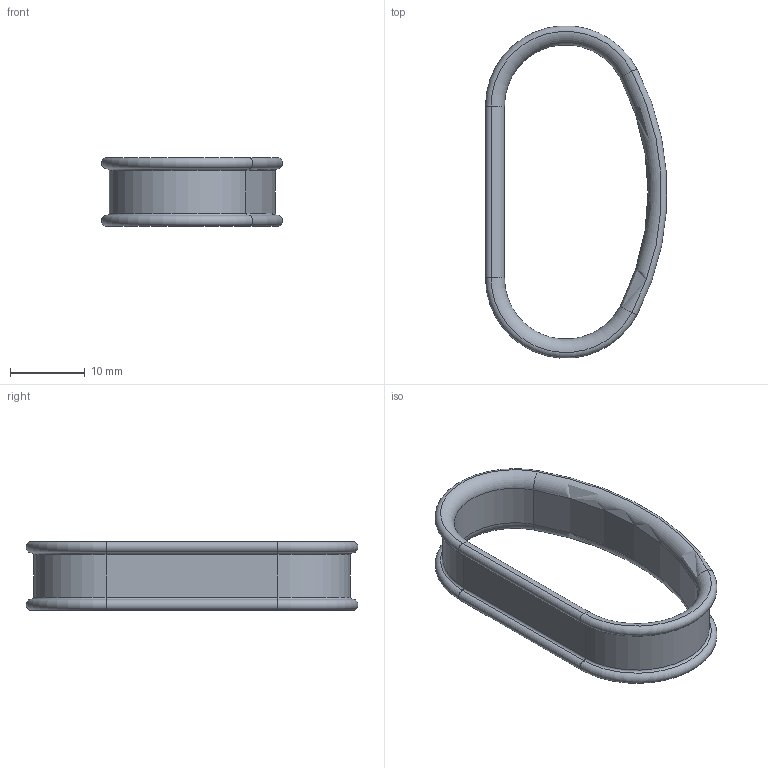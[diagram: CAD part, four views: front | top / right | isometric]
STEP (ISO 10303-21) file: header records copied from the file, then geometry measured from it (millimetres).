
FILE_DESCRIPTION(/* description */ (''),/* implementation_level */ '2;1');
FILE_NAME(/* name */ 'ring.stp',/* time_stamp */ '2025-08-17T18:20:06+02:00',/* author */ ('MehdiBelhadj'),/* organization */ (''),/* preprocessor_version */ 'ST-DEVELOPER v20.1',/* originating_system */ 'Autodesk Inventor 2026',/* authorisation */ '');
FILE_SCHEMA (('AUTOMOTIVE_DESIGN { 1 0 10303 214 3 1 1 }'));
Length unit declared in the file: millimetre
Products named in the file (1): BalgV3_MittelRing
Bounding box: 24.23 x 44.43 x 9.22 mm (x, y, z)
Volume: 1584.3 mm3; surface area: 2370.9 mm2
Topology: 1 solids, 1 shells, 32 faces, 64 edges, 32 vertices
Faces by surface type: torus 18, cylinder 12, plane 2
Entity records: 867 total; most frequent: DIRECTION 178, CARTESIAN_POINT 129, ORIENTED_EDGE 128, AXIS2_PLACEMENT_3D 81, EDGE_CURVE 64, CIRCLE 48, FACE_OUTER_BOUND 32, EDGE_LOOP 32
